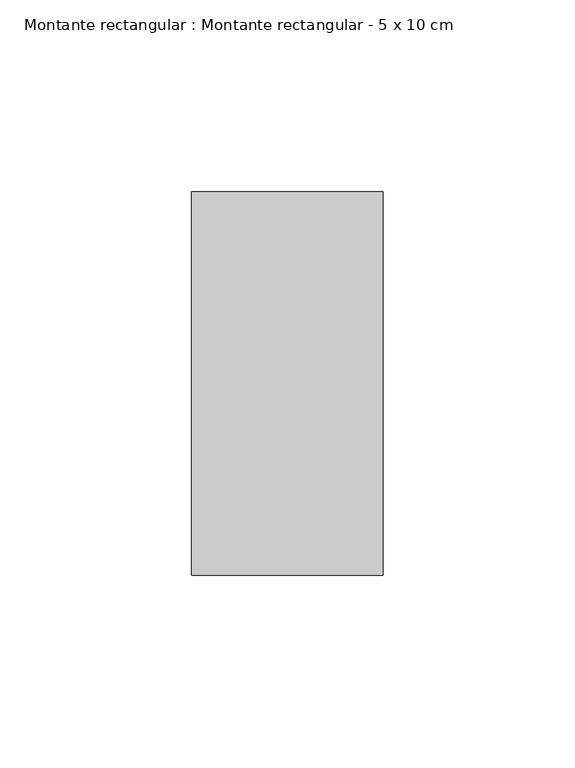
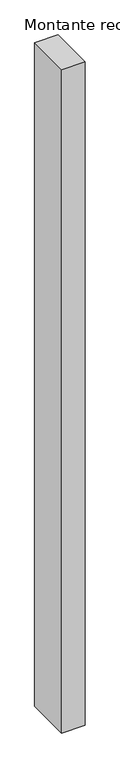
"""IFC4 building model written with IfcOpenShell, lengths in millimetres: member geometry, Montante rectangular : Montante rectangular - 5 x 10 cm."""

from ifc_helpers import new_model, si_unit, frame, origin, place, context, project, spatial, polyline, outline, extrude, source, transform, mapped, element, save


def montante_rectangular_montante_rectangular_5_x_10_cm_f9d413d5(model_context):
    return source(origin(), model_context, "Body", "SweptSolid", [
        extrude(outline(polyline([(25.0, 50.0), (25.0, -50.0), (-25.0, -50.0), (-25.0, 50.0), (25.0, 50.0)])), frame((0.0, 0.0, -1496.282747), z_axis=(0.0, 0.0, 1.0), x_axis=(1.0, 0.0, 0.0)), (0.0, 0.0, 1.0), 1496.282747),
    ])


if __name__ == "__main__":
    model = new_model("IFC4")
    model_context = context("Model", 3, world=origin())
    ifc_project = project(units=[si_unit("LENGTHUNIT", "METRE", prefix="MILLI")], contexts=[model_context])
    site = spatial("IfcSite", under=ifc_project)
    building = spatial("IfcBuilding", under=site)
    placement = place(None, origin())
    montante_rectangular_montante_rectangular_5_x_10_cm_shape = montante_rectangular_montante_rectangular_5_x_10_cm_f9d413d5(model_context)
    element("IfcMember", 1, ObjectType="Montante rectangular : Montante rectangular - 5 x 10 cm", at=placement, inside=building, context=model_context, shape_type="MappedRepresentation", body=[
        mapped(montante_rectangular_montante_rectangular_5_x_10_cm_shape, transform((0.0, 0.0, 0.0), x_axis=(1.0, 0.0, 0.0), y_axis=(0.0, 1.0, 0.0), z_axis=(0.0, 0.0, 1.0))),
    ])
    save(model, "model.ifc")
